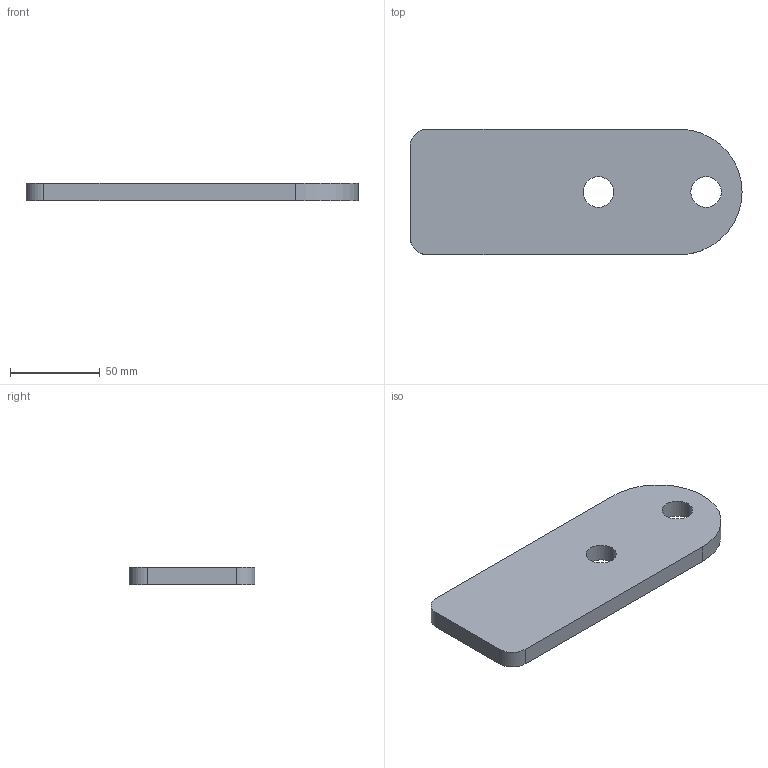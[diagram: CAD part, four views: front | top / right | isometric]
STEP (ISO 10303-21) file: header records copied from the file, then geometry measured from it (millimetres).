
FILE_DESCRIPTION (( 'STEP AP214' ), '1' );
FILE_NAME ('Halteblech.STEP', '2016-12-28T08:44:47', ( '' ), ( '' ), 'SwSTEP 2.0', 'SolidWorks 2016', '' );
FILE_SCHEMA (( 'AUTOMOTIVE_DESIGN' ));
Length unit declared in the file: millimetre
Products named in the file (1): Halteblech
Bounding box: 185 x 70 x 10 mm (x, y, z)
Volume: 119273.4 mm3; surface area: 29636.5 mm2
Topology: 1 solids, 1 shells, 12 faces, 30 edges, 20 vertices
Faces by surface type: cylinder 7, plane 5
Entity records: 410 total; most frequent: DIRECTION 70, CARTESIAN_POINT 63, ORIENTED_EDGE 60, EDGE_CURVE 30, AXIS2_PLACEMENT_3D 27, VERTEX_POINT 20, VECTOR 16, LINE 16
